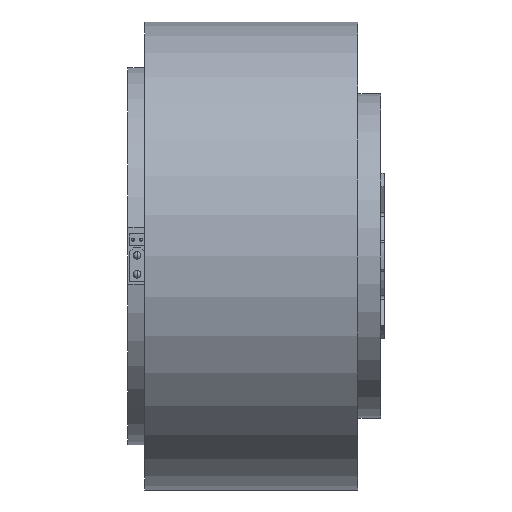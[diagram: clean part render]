
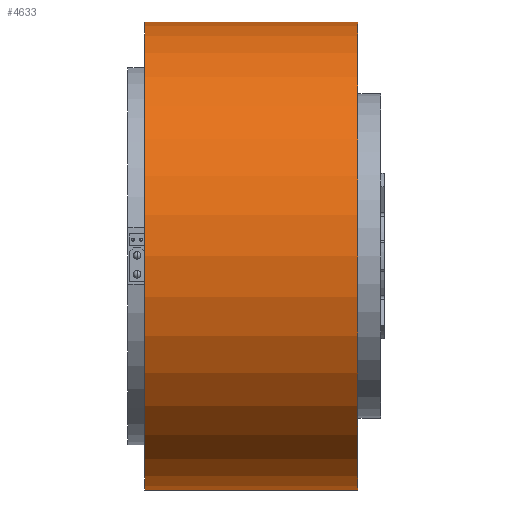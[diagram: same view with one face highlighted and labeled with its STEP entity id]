
A CAD part, left-side view. The second image highlights one B-rep face of the part: STEP entity #4633.
In plain terms, the highlighted cylindrical face has radius 62 mm (diameter 124 mm), a partial arc.
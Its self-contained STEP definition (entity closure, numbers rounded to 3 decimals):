
#42 = CARTESIAN_POINT ( 'NONE',  ( 0., 9.181, -62. ) ) ;
#57 = DIRECTION ( 'NONE',  ( 0., 1., 0. ) ) ;
#144 = CARTESIAN_POINT ( 'NONE',  ( 0., 9.181, 62. ) ) ;
#176 = VERTEX_POINT ( 'NONE', #4658 ) ;
#500 = AXIS2_PLACEMENT_3D ( 'NONE', #1459, #57, #2580 ) ;
#816 = LINE ( 'NONE', #7763, #2236 ) ;
#940 = CARTESIAN_POINT ( 'NONE',  ( 0., 9.181, 62. ) ) ;
#1459 = CARTESIAN_POINT ( 'NONE',  ( 0., 9.181, 0. ) ) ;
#1672 = VERTEX_POINT ( 'NONE', #144 ) ;
#1749 = CARTESIAN_POINT ( 'NONE',  ( 0., 9.181, 0. ) ) ;
#1793 = VECTOR ( 'NONE', #3478, 1000. ) ;
#2236 = VECTOR ( 'NONE', #3393, 1000. ) ;
#2251 = VERTEX_POINT ( 'NONE', #7528 ) ;
#2377 = VERTEX_POINT ( 'NONE', #42 ) ;
#2533 = EDGE_CURVE ( 'NONE', #2377, #2251, #816, .T. ) ;
#2580 = DIRECTION ( 'NONE',  ( 0., 0., 1. ) ) ;
#2746 = CIRCLE ( 'NONE', #7276, 62. ) ;
#3086 = DIRECTION ( 'NONE',  ( 0., 0., -1. ) ) ;
#3393 = DIRECTION ( 'NONE',  ( 0., 1., 0. ) ) ;
#3478 = DIRECTION ( 'NONE',  ( 0., 1., 0. ) ) ;
#3544 = EDGE_LOOP ( 'NONE', ( #8230, #6968, #6013, #4945 ) ) ;
#3639 = LINE ( 'NONE', #940, #1793 ) ;
#4262 = DIRECTION ( 'NONE',  ( 0., -1., 0. ) ) ;
#4454 = EDGE_CURVE ( 'NONE', #1672, #2377, #2746, .T. ) ;
#4633 = ADVANCED_FACE ( 'NONE', ( #7710 ), #7047, .T. ) ;
#4658 = CARTESIAN_POINT ( 'NONE',  ( 0., 65.681, 62. ) ) ;
#4904 = CIRCLE ( 'NONE', #5295, 62. ) ;
#4945 = ORIENTED_EDGE ( 'NONE', *, *, #6003, .T. ) ;
#5237 = DIRECTION ( 'NONE',  ( 0., 0., -1. ) ) ;
#5284 = DIRECTION ( 'NONE',  ( 0., -1., 0. ) ) ;
#5295 = AXIS2_PLACEMENT_3D ( 'NONE', #7196, #5284, #5237 ) ;
#6003 = EDGE_CURVE ( 'NONE', #176, #2251, #4904, .T. ) ;
#6013 = ORIENTED_EDGE ( 'NONE', *, *, #6592, .T. ) ;
#6592 = EDGE_CURVE ( 'NONE', #1672, #176, #3639, .T. ) ;
#6968 = ORIENTED_EDGE ( 'NONE', *, *, #4454, .F. ) ;
#7047 = CYLINDRICAL_SURFACE ( 'NONE', #500, 62. ) ;
#7196 = CARTESIAN_POINT ( 'NONE',  ( 0., 65.681, 0. ) ) ;
#7276 = AXIS2_PLACEMENT_3D ( 'NONE', #1749, #4262, #3086 ) ;
#7528 = CARTESIAN_POINT ( 'NONE',  ( 0., 65.681, -62. ) ) ;
#7710 = FACE_OUTER_BOUND ( 'NONE', #3544, .T. ) ;
#7763 = CARTESIAN_POINT ( 'NONE',  ( 0., 9.181, -62. ) ) ;
#8230 = ORIENTED_EDGE ( 'NONE', *, *, #2533, .F. ) ;
